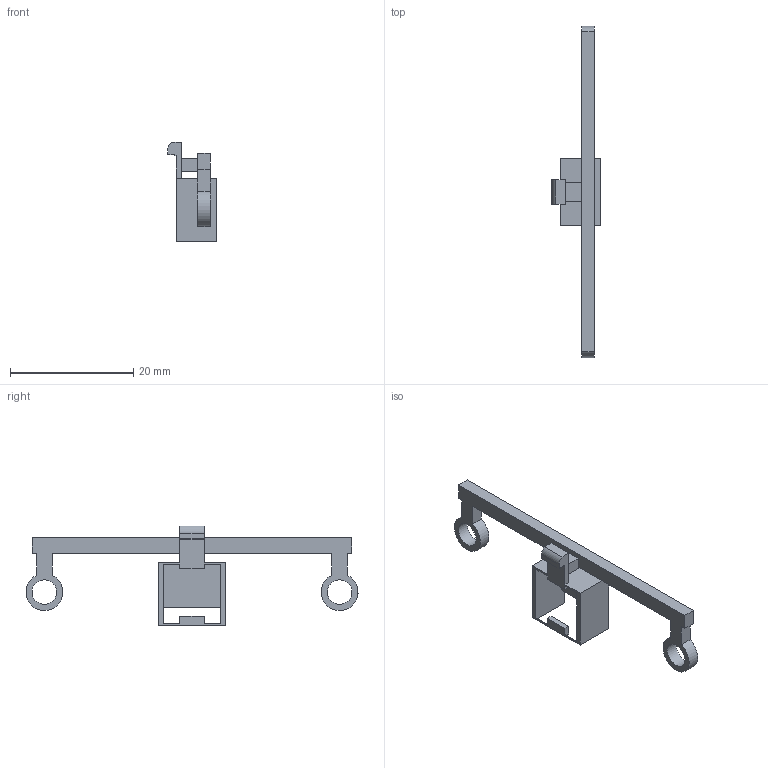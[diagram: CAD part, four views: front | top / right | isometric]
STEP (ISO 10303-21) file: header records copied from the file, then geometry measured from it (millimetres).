
FILE_DESCRIPTION(('Open CASCADE Model'),'2;1');
FILE_NAME('Open CASCADE Shape Model','2026-09-06T11:46:51',('Author'),( 'Open CASCADE'),'Open CASCADE STEP processor 7.7','Open CASCADE 7.7' ,'Unknown');
FILE_SCHEMA(('AUTOMOTIVE_DESIGN { 1 0 10303 214 1 1 1 1 }'));
Length unit declared in the file: millimetre
Products named in the file (1): Open CASCADE STEP translator 7.7 1
Bounding box: 7.9 x 53.98 x 16.15 mm (x, y, z)
Volume: 595.2 mm3; surface area: 1411.6 mm2
Topology: 1 solids, 1 shells, 53 faces, 153 edges, 102 vertices
Faces by surface type: plane 48, cylinder 5
Full cylindrical faces by diameter (mm): 4 x2
Entity records: 3733 total; most frequent: CARTESIAN_POINT 628, DIRECTION 574, LINE 438, VECTOR 438, ORIENTED_EDGE 306, PCURVE 306, DEFINITIONAL_REPRESENTATION 306, EDGE_CURVE 153
